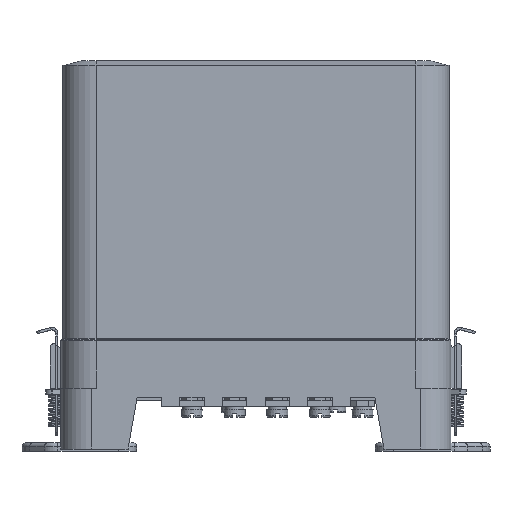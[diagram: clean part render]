
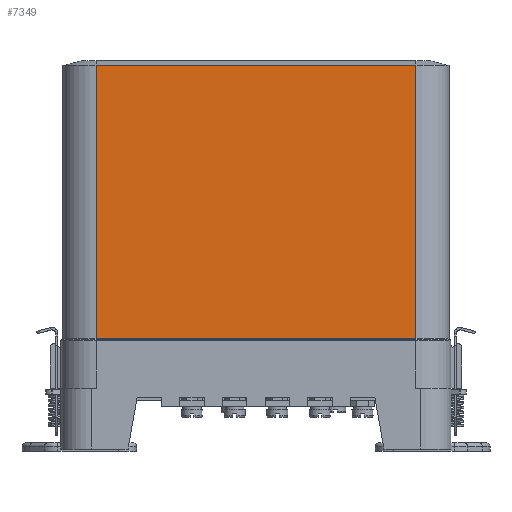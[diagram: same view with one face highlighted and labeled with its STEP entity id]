
A CAD part, left-side view. The second image highlights one B-rep face of the part: STEP entity #7349.
In plain terms, the highlighted planar face has unit normal (-1, 0, 0).
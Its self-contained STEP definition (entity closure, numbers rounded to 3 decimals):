
#7349=ADVANCED_FACE('',(#18059),#18061,.T.);
#18059=FACE_BOUND('',#18060,.T.);
#18060=EDGE_LOOP('',(#33864,#33865,#33866,#33867));
#18061=PLANE('',#18062);
#18062=AXIS2_PLACEMENT_3D('',#18063,#18064,#18065);
#18063=CARTESIAN_POINT('',(-46.5,52.5,20.));
#18064=DIRECTION('',(-1.,0.,0.));
#18065=DIRECTION('',(0.,-1.,0.));
#33864=ORIENTED_EDGE('',*,*,#38479,.T.);
#33865=ORIENTED_EDGE('',*,*,#38480,.F.);
#33866=ORIENTED_EDGE('',*,*,#37883,.F.);
#33867=ORIENTED_EDGE('',*,*,#38481,.T.);
#37883=EDGE_CURVE('',#42480,#42481,#42482,.F.);
#38479=EDGE_CURVE('',#43483,#43484,#43485,.F.);
#38480=EDGE_CURVE('',#42481,#43484,#43486,.T.);
#38481=EDGE_CURVE('',#42480,#43483,#43487,.T.);
#42480=VERTEX_POINT('',#52166);
#42481=VERTEX_POINT('',#52167);
#42482=LINE('',#52168,#52169);
#43483=VERTEX_POINT('',#54659);
#43484=VERTEX_POINT('',#54660);
#43485=LINE('',#54661,#54662);
#43486=LINE('',#54664,#54665);
#43487=LINE('',#54667,#54668);
#52166=CARTESIAN_POINT('',(-46.5,-52.5,36.366));
#52167=CARTESIAN_POINT('',(-46.5,52.5,36.366));
#52168=CARTESIAN_POINT('',(-46.5,52.5,36.366));
#52169=VECTOR('',#52170,1.);
#52170=DIRECTION('',(0.,-1.,0.));
#54659=CARTESIAN_POINT('',(-46.5,-52.5,126.));
#54660=CARTESIAN_POINT('',(-46.5,52.5,126.));
#54661=CARTESIAN_POINT('',(-46.5,52.5,126.));
#54662=VECTOR('',#54663,1.);
#54663=DIRECTION('',(0.,-1.,0.));
#54664=CARTESIAN_POINT('',(-46.5,52.5,36.366));
#54665=VECTOR('',#54666,1.);
#54666=DIRECTION('',(0.,0.,1.));
#54667=CARTESIAN_POINT('',(-46.5,-52.5,36.366));
#54668=VECTOR('',#54669,1.);
#54669=DIRECTION('',(0.,0.,1.));
